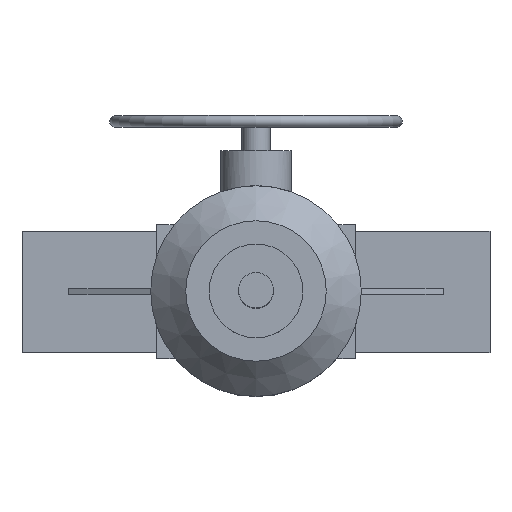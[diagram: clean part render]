
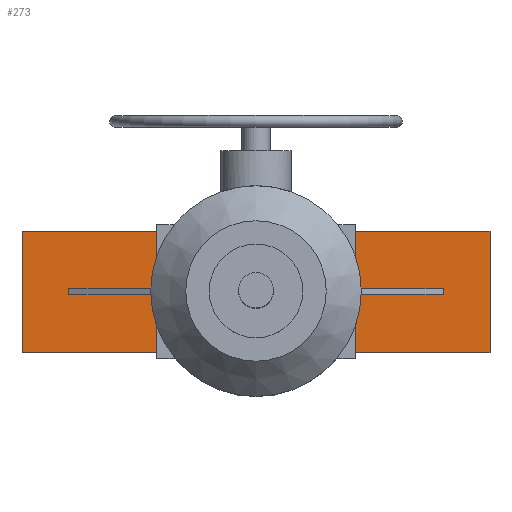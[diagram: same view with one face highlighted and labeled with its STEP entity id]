
A CAD part, top view. The second image highlights one B-rep face of the part: STEP entity #273.
In plain terms, the highlighted planar face has unit normal (0, 0, 1).
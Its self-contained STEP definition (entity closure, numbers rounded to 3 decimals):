
#273=ADVANCED_FACE('',(#1504,#1506),#1508,.T.);
#1504=FACE_BOUND('',#1505,.T.);
#1505=EDGE_LOOP('',(#2537,#2538,#2539,#2540,#2541,#2542,#2543,#2544));
#1506=FACE_BOUND('',#1507,.T.);
#1507=EDGE_LOOP('',(#2545,#2546,#2547,#2548));
#1508=PLANE('',#1509);
#1509=AXIS2_PLACEMENT_3D('',#1510,#1511,#1512);
#1510=CARTESIAN_POINT('',(0.,0.,330.));
#1511=DIRECTION('',(0.,0.,1.));
#1512=DIRECTION('',(1.,0.,0.));
#2537=ORIENTED_EDGE('',*,*,#3132,.F.);
#2538=ORIENTED_EDGE('',*,*,#3137,.T.);
#2539=ORIENTED_EDGE('',*,*,#3140,.T.);
#2540=ORIENTED_EDGE('',*,*,#3123,.T.);
#2541=ORIENTED_EDGE('',*,*,#3129,.F.);
#2542=ORIENTED_EDGE('',*,*,#3127,.T.);
#2543=ORIENTED_EDGE('',*,*,#3141,.T.);
#2544=ORIENTED_EDGE('',*,*,#3133,.T.);
#2545=ORIENTED_EDGE('',*,*,#3142,.F.);
#2546=ORIENTED_EDGE('',*,*,#3143,.F.);
#2547=ORIENTED_EDGE('',*,*,#3144,.F.);
#2548=ORIENTED_EDGE('',*,*,#3145,.F.);
#3123=EDGE_CURVE('',#3482,#3465,#3483,.T.);
#3127=EDGE_CURVE('',#3445,#3488,#3490,.T.);
#3129=EDGE_CURVE('',#3445,#3465,#3492,.T.);
#3132=EDGE_CURVE('',#3459,#3451,#3496,.T.);
#3133=EDGE_CURVE('',#3497,#3451,#3498,.T.);
#3137=EDGE_CURVE('',#3459,#3503,#3505,.T.);
#3140=EDGE_CURVE('',#3503,#3482,#3510,.T.);
#3141=EDGE_CURVE('',#3488,#3497,#3511,.T.);
#3142=EDGE_CURVE('',#3512,#3513,#3514,.T.);
#3143=EDGE_CURVE('',#3515,#3512,#3516,.F.);
#3144=EDGE_CURVE('',#3517,#3515,#3518,.T.);
#3145=EDGE_CURVE('',#3513,#3517,#3519,.T.);
#3445=VERTEX_POINT('',#4052);
#3451=VERTEX_POINT('',#4064);
#3459=VERTEX_POINT('',#4082);
#3465=VERTEX_POINT('',#4094);
#3482=VERTEX_POINT('',#4142);
#3483=LINE('',#4143,#4144);
#3488=VERTEX_POINT('',#4154);
#3490=LINE('',#4158,#4159);
#3492=LINE('',#4164,#4165);
#3496=LINE('',#4175,#4176);
#3497=VERTEX_POINT('',#4178);
#3498=LINE('',#4179,#4180);
#3503=VERTEX_POINT('',#4190);
#3505=LINE('',#4194,#4195);
#3510=LINE('',#4207,#4208);
#3511=LINE('',#4210,#4211);
#3512=VERTEX_POINT('',#4213);
#3513=VERTEX_POINT('',#4214);
#3514=LINE('',#4215,#4216);
#3515=VERTEX_POINT('',#4218);
#3516=LINE('',#4219,#4220);
#3517=VERTEX_POINT('',#4222);
#3518=LINE('',#4223,#4224);
#3519=LINE('',#4226,#4227);
#4052=CARTESIAN_POINT('',(-85.,52.,330.));
#4064=CARTESIAN_POINT('',(-85.,-52.,330.));
#4082=CARTESIAN_POINT('',(85.,-52.,330.));
#4094=CARTESIAN_POINT('',(85.,52.,330.));
#4142=CARTESIAN_POINT('',(200.,52.,330.));
#4143=CARTESIAN_POINT('',(200.,52.,330.));
#4144=VECTOR('',#4145,1.);
#4145=DIRECTION('',(-1.,0.,0.));
#4154=CARTESIAN_POINT('',(-200.,52.,330.));
#4158=CARTESIAN_POINT('',(-85.,52.,330.));
#4159=VECTOR('',#4160,1.);
#4160=DIRECTION('',(-1.,0.,0.));
#4164=CARTESIAN_POINT('',(-85.,52.,330.));
#4165=VECTOR('',#4166,1.);
#4166=DIRECTION('',(1.,0.,0.));
#4175=CARTESIAN_POINT('',(85.,-52.,330.));
#4176=VECTOR('',#4177,1.);
#4177=DIRECTION('',(-1.,0.,0.));
#4178=CARTESIAN_POINT('',(-200.,-52.,330.));
#4179=CARTESIAN_POINT('',(-200.,-52.,330.));
#4180=VECTOR('',#4181,1.);
#4181=DIRECTION('',(1.,0.,0.));
#4190=CARTESIAN_POINT('',(200.,-52.,330.));
#4194=CARTESIAN_POINT('',(85.,-52.,330.));
#4195=VECTOR('',#4196,1.);
#4196=DIRECTION('',(1.,0.,0.));
#4207=CARTESIAN_POINT('',(200.,-52.,330.));
#4208=VECTOR('',#4209,1.);
#4209=DIRECTION('',(0.,1.,0.));
#4210=CARTESIAN_POINT('',(-200.,52.,330.));
#4211=VECTOR('',#4212,1.);
#4212=DIRECTION('',(0.,-1.,0.));
#4213=CARTESIAN_POINT('',(-160.,2.5,330.));
#4214=CARTESIAN_POINT('',(-160.,-2.5,330.));
#4215=CARTESIAN_POINT('',(-160.,2.5,330.));
#4216=VECTOR('',#4217,1.);
#4217=DIRECTION('',(0.,-1.,0.));
#4218=CARTESIAN_POINT('',(160.,2.5,330.));
#4219=CARTESIAN_POINT('',(-160.,2.5,330.));
#4220=VECTOR('',#4221,1.);
#4221=DIRECTION('',(1.,0.,0.));
#4222=CARTESIAN_POINT('',(160.,-2.5,330.));
#4223=CARTESIAN_POINT('',(160.,-2.5,330.));
#4224=VECTOR('',#4225,1.);
#4225=DIRECTION('',(0.,1.,0.));
#4226=CARTESIAN_POINT('',(-160.,-2.5,330.));
#4227=VECTOR('',#4228,1.);
#4228=DIRECTION('',(1.,0.,0.));
